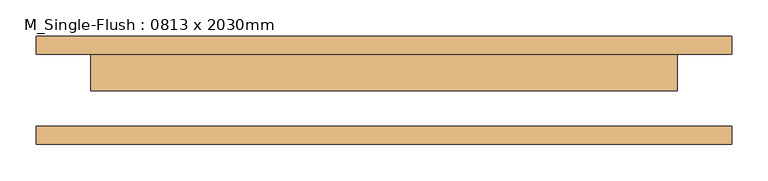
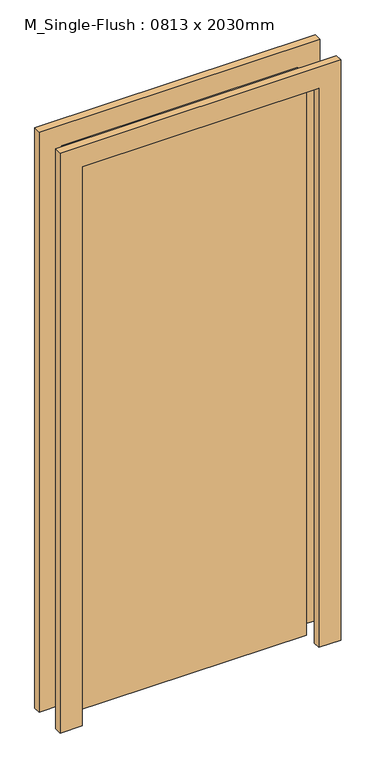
"""IFC4 building model written with IfcOpenShell, lengths in millimetres: door geometry, M_Single-Flush : 0813 x 2030mm."""

from ifc_helpers import new_model, si_unit, frame, origin, origin_with_axes, place, context, project, spatial, polyline, outline, extrude, source, transform, mapped, element, save


def m_single_flush_0813_x_2030mm_4a34e6f7(model_context):
    return source(origin(), model_context, "Body", "SweptSolid", [
        extrude(outline(polyline([(2106.0, -482.5), (0.0, -482.5), (0.0, -406.5), (2030.0, -406.5), (2030.0, 406.5), (0.0, 406.5), (0.0, 482.5), (2106.0, 482.5), (2106.0, -482.5)])), frame((0.0, 50.0, 0.0), z_axis=(0.0, 1.0, 0.0), x_axis=(0.0, 0.0, 1.0)), (0.0, 0.0, 1.0), 25.0),
        extrude(outline(polyline([(2106.0, 482.5), (2106.0, -482.5), (0.0, -482.5), (0.0, -406.5), (2030.0, -406.5), (2030.0, 406.5), (0.0, 406.5), (0.0, 482.5), (2106.0, 482.5)])), frame((0.0, -75.0, 0.0), z_axis=(0.0, 1.0, 0.0), x_axis=(0.0, 0.0, 1.0)), (0.0, 0.0, 1.0), 25.0),
        extrude(outline(polyline([(406.5, -1.0), (-406.5, -1.0), (-406.5, 50.0), (406.5, 50.0), (406.5, -1.0)])), origin_with_axes(), (0.0, 0.0, 1.0), 2030.0),
    ])


if __name__ == "__main__":
    model = new_model("IFC4")
    model_context = context("Model", 3, world=origin())
    ifc_project = project(units=[si_unit("LENGTHUNIT", "METRE", prefix="MILLI")], contexts=[model_context])
    site = spatial("IfcSite", under=ifc_project)
    building = spatial("IfcBuilding", under=site)
    placement = place(None, origin())
    m_single_flush_0813_x_2030mm_shape = m_single_flush_0813_x_2030mm_4a34e6f7(model_context)
    element("IfcDoor", 1, ObjectType="M_Single-Flush : 0813 x 2030mm", at=placement, inside=building, context=model_context, shape_type="MappedRepresentation", body=[
        mapped(m_single_flush_0813_x_2030mm_shape, transform((0.0, 0.0, 0.0), x_axis=(1.0, 0.0, 0.0), y_axis=(0.0, 1.0, 0.0), z_axis=(0.0, 0.0, 1.0))),
    ])
    save(model, "model.ifc")
